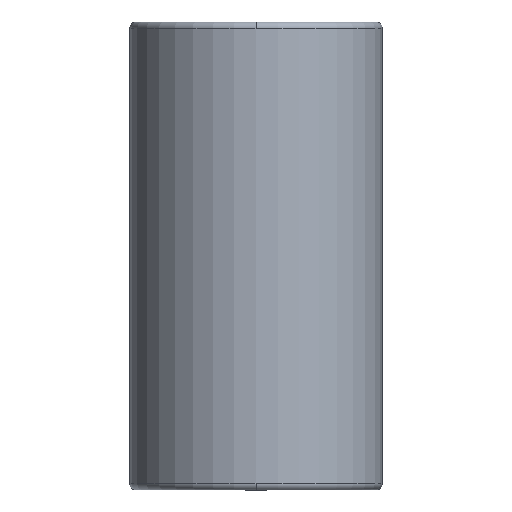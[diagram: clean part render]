
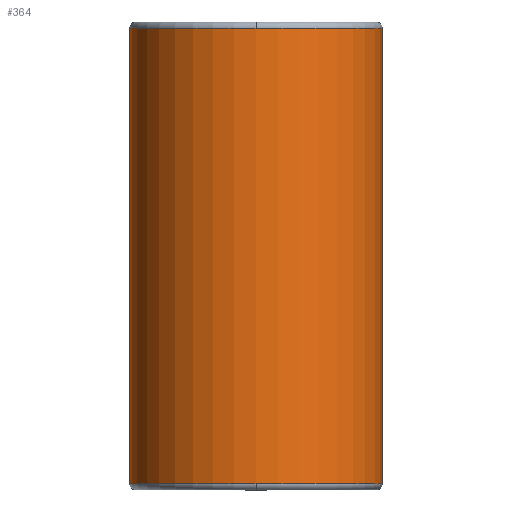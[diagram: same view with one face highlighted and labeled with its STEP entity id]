
A CAD part, front view. The second image highlights one B-rep face of the part: STEP entity #364.
In plain terms, the highlighted cylindrical face has radius 40.492 mm (diameter 80.984 mm), a partial arc.
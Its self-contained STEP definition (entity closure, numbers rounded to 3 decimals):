
#269=CARTESIAN_POINT('',(0.0,-40.492,148.));
#270=VERTEX_POINT('',#269);
#296=CARTESIAN_POINT('',(-40.492,0.,148.));
#297=VERTEX_POINT('',#296);
#305=CARTESIAN_POINT('',(0.0,0.,148.));
#306=DIRECTION('',(0.0,0.0,1.0));
#307=DIRECTION('',(1.0,0.0,0.0));
#308=AXIS2_PLACEMENT_3D('',#305,#306,#307);
#309=CIRCLE('',#308,40.492);
#310=EDGE_CURVE('',#297,#270,#309,.T.);
#315=CARTESIAN_POINT('',(0.0,0.,75.));
#316=DIRECTION('',(0.0,0.,1.0));
#317=DIRECTION('',(1.0,0.0,0.0));
#318=AXIS2_PLACEMENT_3D('',#315,#316,#317);
#319=CYLINDRICAL_SURFACE('',#318,40.492);
#320=CARTESIAN_POINT('',(40.492,0.,148.));
#321=VERTEX_POINT('',#320);
#322=CARTESIAN_POINT('',(40.492,0.,2.));
#323=VERTEX_POINT('',#322);
#324=CARTESIAN_POINT('',(40.492,0.,148.));
#325=DIRECTION('',(0.0,0.0,-1.0));
#326=VECTOR('',#325,146.);
#327=LINE('',#324,#326);
#328=EDGE_CURVE('',#321,#323,#327,.T.);
#329=ORIENTED_EDGE('',*,*,#328,.F.);
#330=CARTESIAN_POINT('',(0.0,0.,148.));
#331=DIRECTION('',(0.0,0.0,1.0));
#332=DIRECTION('',(1.0,0.0,0.0));
#333=AXIS2_PLACEMENT_3D('',#330,#331,#332);
#334=CIRCLE('',#333,40.492);
#335=EDGE_CURVE('',#270,#321,#334,.T.);
#336=ORIENTED_EDGE('',*,*,#335,.F.);
#337=ORIENTED_EDGE('',*,*,#310,.F.);
#338=CARTESIAN_POINT('',(-40.492,0.,2.0));
#339=VERTEX_POINT('',#338);
#340=CARTESIAN_POINT('',(-40.492,0.,148.));
#341=DIRECTION('',(0.0,0.0,-1.0));
#342=VECTOR('',#341,146.);
#343=LINE('',#340,#342);
#344=EDGE_CURVE('',#297,#339,#343,.T.);
#345=ORIENTED_EDGE('',*,*,#344,.T.);
#346=CARTESIAN_POINT('',(0.0,-40.492,2.));
#347=VERTEX_POINT('',#346);
#348=CARTESIAN_POINT('',(0.0,0.,2.0));
#349=DIRECTION('',(0.0,0.0,1.0));
#350=DIRECTION('',(1.0,0.0,0.0));
#351=AXIS2_PLACEMENT_3D('',#348,#349,#350);
#352=CIRCLE('',#351,40.492);
#353=EDGE_CURVE('',#339,#347,#352,.T.);
#354=ORIENTED_EDGE('',*,*,#353,.T.);
#355=CARTESIAN_POINT('',(0.0,0.,2.0));
#356=DIRECTION('',(0.0,0.0,1.0));
#357=DIRECTION('',(1.0,0.0,0.0));
#358=AXIS2_PLACEMENT_3D('',#355,#356,#357);
#359=CIRCLE('',#358,40.492);
#360=EDGE_CURVE('',#347,#323,#359,.T.);
#361=ORIENTED_EDGE('',*,*,#360,.T.);
#362=EDGE_LOOP('',(#329,#336,#337,#345,#354,#361));
#363=FACE_OUTER_BOUND('',#362,.T.);
#364=ADVANCED_FACE('',(#363),#319,.T.);
